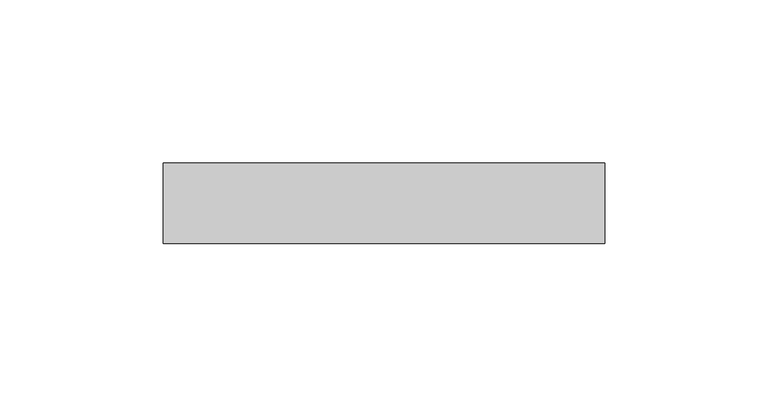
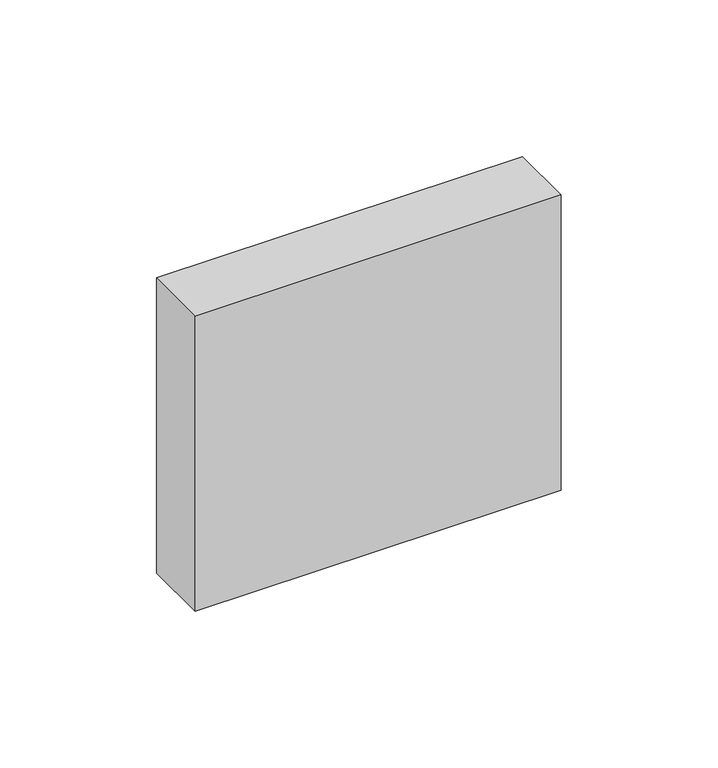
"""IFC4 building model written with IfcOpenShell, lengths in millimetres: geographic element geometry, Enscape AssetDefinition - Intercom 001 : Enscape AssetDefinition - Intercom 001."""

from ifc_helpers import new_model, si_unit, origin, place, context, project, spatial, triangles, source, transform, mapped, element, save


def geographic_element_89dd2758(model_context):
    return source(origin(), model_context, "Body", "Tessellation", [
        triangles([(67.5000041, -24.6199998, 58.6679987), (67.5000041, -0.05, 58.6679987), (-67.5000041, -0.05, 58.6679987), (-67.5000041, -24.6199998, 58.6679987), (-67.5000041, -24.6199998, -56.3319994), (-67.5000041, -0.05, -56.3319994), (67.5000041, -24.6199998, -56.3319994), (67.5000041, -0.05, -56.3319994)], [[7, 6, 8], [5, 6, 7], [2, 8, 6], [3, 2, 6], [1, 7, 8], [2, 1, 8], [4, 5, 7], [1, 4, 7], [3, 6, 5], [4, 3, 5], [1, 2, 3], [4, 1, 3]]),
    ])


if __name__ == "__main__":
    model = new_model("IFC4")
    model_context = context("Model", 3, world=origin())
    ifc_project = project(units=[si_unit("LENGTHUNIT", "METRE", prefix="MILLI")], contexts=[model_context])
    site = spatial("IfcSite", under=ifc_project)
    building = spatial("IfcBuilding", under=site)
    placement = place(None, origin())
    geographic_element_shape = geographic_element_89dd2758(model_context)
    element("IfcGeographicElement", 1, ObjectType="Enscape AssetDefinition - Intercom 001 : Enscape AssetDefinition - Intercom 001", at=placement, inside=building, context=model_context, shape_type="MappedRepresentation", body=[
        mapped(geographic_element_shape, transform((0.0, 0.0, 0.0), x_axis=(1.0, 0.0, 0.0), y_axis=(0.0, 1.0, 0.0), z_axis=(0.0, 0.0, 1.0))),
    ])
    save(model, "model.ifc")
